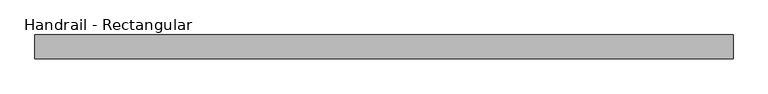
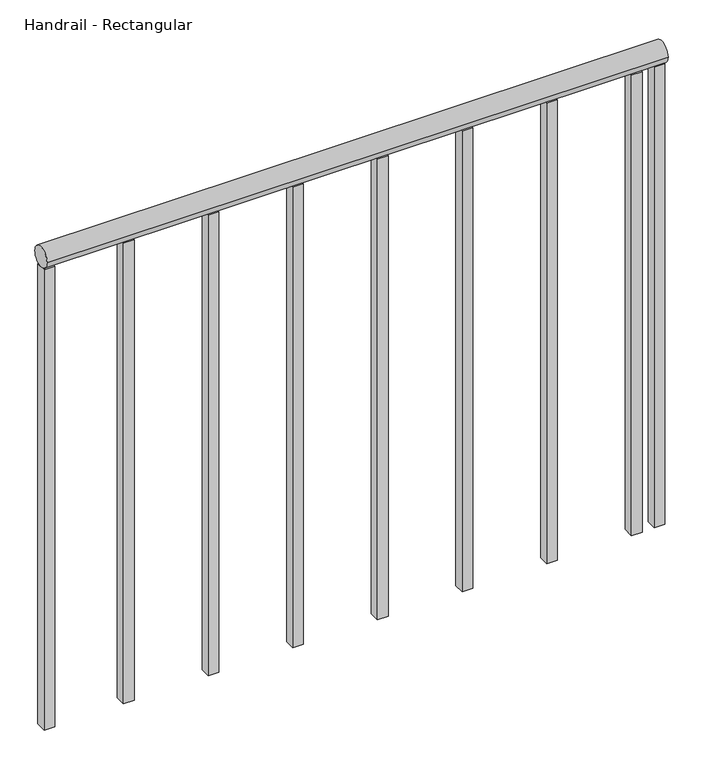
"""IFC4 building model written with IfcOpenShell, lengths in millimetres: railing geometry, Handrail - Rectangular."""

from ifc_helpers import new_model, si_unit, point, frame, frame_2d, origin, place, context, project, spatial, polyline, circle_curve, trimmed, segment, composite_curve, outline, extrude, source, transform, mapped, element, save


def handrail_rectangular_7020c1bb(model_context):
    return source(origin(), model_context, "Body", "SweptSolid", [
        extrude(outline(composite_curve([segment(trimmed(circle_curve(frame_2d((-27983.9683133, 10039.35)), 19.05), [point((-27964.9183133, 10039.35))], [point((-28003.0183133, 10039.35))], False, "CARTESIAN"), True, "CONTINUOUS"), segment(trimmed(circle_curve(frame_2d((-27983.9683133, 10039.35)), 19.05), [point((-28003.0183133, 10039.35))], [point((-27964.9183133, 10039.35))], False, "CARTESIAN"), True, "CONTINUOUS")], self_intersect=False)), frame((-31964.2839563, 0.0, 0.0), z_axis=(1.0, 0.0, 0.0), x_axis=(0.0, 1.0, 0.0)), (0.0, 0.0, 1.0), 1117.6),
        extrude(outline(polyline([(-30907.0089563, -27993.4933133), (-30907.0089563, -27974.4433133), (-30887.9589563, -27974.4433133), (-30887.9589563, -27993.4933133), (-30907.0089563, -27993.4933133)])), frame((0.0, 0.0, 9144.0), z_axis=(0.0, 0.0, 1.0), x_axis=(1.0, 0.0, 0.0)), (0.0, 0.0, 1.0), 876.3),
        extrude(outline(polyline([(-31059.4089563, -27993.4933133), (-31059.4089563, -27974.4433133), (-31040.3589563, -27974.4433133), (-31040.3589563, -27993.4933133), (-31059.4089563, -27993.4933133)])), frame((0.0, 0.0, 9144.0), z_axis=(0.0, 0.0, 1.0), x_axis=(1.0, 0.0, 0.0)), (0.0, 0.0, 1.0), 876.3),
        extrude(outline(polyline([(-31211.8089563, -27993.4933133), (-31211.8089563, -27974.4433133), (-31192.7589563, -27974.4433133), (-31192.7589563, -27993.4933133), (-31211.8089563, -27993.4933133)])), frame((0.0, 0.0, 9144.0), z_axis=(0.0, 0.0, 1.0), x_axis=(1.0, 0.0, 0.0)), (0.0, 0.0, 1.0), 876.3),
        extrude(outline(polyline([(-31364.2089563, -27993.4933133), (-31364.2089563, -27974.4433133), (-31345.1589563, -27974.4433133), (-31345.1589563, -27993.4933133), (-31364.2089563, -27993.4933133)])), frame((0.0, 0.0, 9144.0), z_axis=(0.0, 0.0, 1.0), x_axis=(1.0, 0.0, 0.0)), (0.0, 0.0, 1.0), 876.3),
        extrude(outline(polyline([(-31516.6089563, -27993.4933133), (-31516.6089563, -27974.4433133), (-31497.5589563, -27974.4433133), (-31497.5589563, -27993.4933133), (-31516.6089563, -27993.4933133)])), frame((0.0, 0.0, 9144.0), z_axis=(0.0, 0.0, 1.0), x_axis=(1.0, 0.0, 0.0)), (0.0, 0.0, 1.0), 876.3),
        extrude(outline(polyline([(-31669.0089563, -27993.4933133), (-31669.0089563, -27974.4433133), (-31649.9589563, -27974.4433133), (-31649.9589563, -27993.4933133), (-31669.0089563, -27993.4933133)])), frame((0.0, 0.0, 9144.0), z_axis=(0.0, 0.0, 1.0), x_axis=(1.0, 0.0, 0.0)), (0.0, 0.0, 1.0), 876.3),
        extrude(outline(polyline([(-31821.4089563, -27993.4933133), (-31821.4089563, -27974.4433133), (-31802.3589563, -27974.4433133), (-31802.3589563, -27993.4933133), (-31821.4089563, -27993.4933133)])), frame((0.0, 0.0, 9144.0), z_axis=(0.0, 0.0, 1.0), x_axis=(1.0, 0.0, 0.0)), (0.0, 0.0, 1.0), 876.3),
        extrude(outline(polyline([(-30865.7339563, -27993.4933133), (-30865.7339563, -27974.4433133), (-30846.6839563, -27974.4433133), (-30846.6839563, -27993.4933133), (-30865.7339563, -27993.4933133)])), frame((0.0, 0.0, 9144.0), z_axis=(0.0, 0.0, 1.0), x_axis=(1.0, 0.0, 0.0)), (0.0, 0.0, 1.0), 876.3),
        extrude(outline(polyline([(-31964.2839563, -27993.4933133), (-31964.2839563, -27974.4433133), (-31945.2339563, -27974.4433133), (-31945.2339563, -27993.4933133), (-31964.2839563, -27993.4933133)])), frame((0.0, 0.0, 9144.0), z_axis=(0.0, 0.0, 1.0), x_axis=(1.0, 0.0, 0.0)), (0.0, 0.0, 1.0), 876.3),
    ])


if __name__ == "__main__":
    model = new_model("IFC4")
    model_context = context("Model", 3, world=origin())
    ifc_project = project(units=[si_unit("LENGTHUNIT", "METRE", prefix="MILLI")], contexts=[model_context])
    site = spatial("IfcSite", under=ifc_project)
    building = spatial("IfcBuilding", under=site)
    placement = place(None, origin())
    handrail_rectangular_shape = handrail_rectangular_7020c1bb(model_context)
    element("IfcRailing", 1, ObjectType="Handrail - Rectangular", at=placement, inside=building, context=model_context, shape_type="MappedRepresentation", body=[
        mapped(handrail_rectangular_shape, transform((0.0, 0.0, 0.0), x_axis=(1.0, 0.0, 0.0), y_axis=(0.0, 1.0, 0.0), z_axis=(0.0, 0.0, 1.0))),
    ])
    save(model, "model.ifc")
